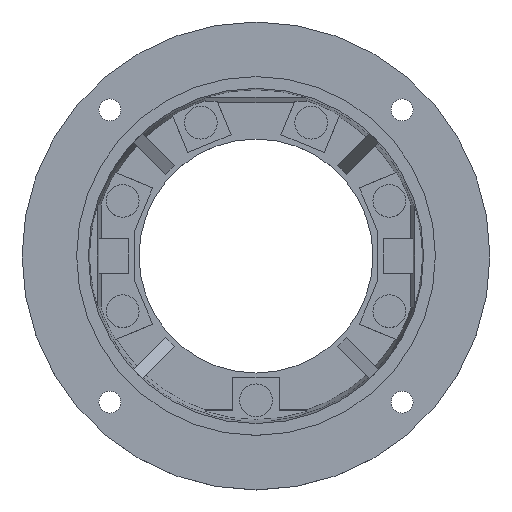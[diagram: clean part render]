
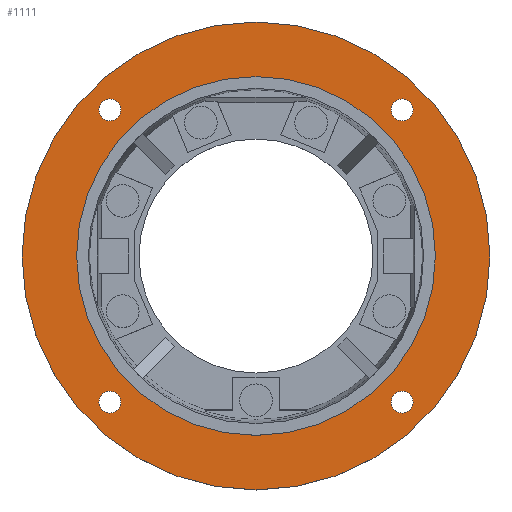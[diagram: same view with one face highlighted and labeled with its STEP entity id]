
A CAD part, top view. The second image highlights one B-rep face of the part: STEP entity #1111.
In plain terms, the highlighted planar face has unit normal (0, 0, 1) as drawn and (1, 0, 0) by its records, which use the part's own axes.
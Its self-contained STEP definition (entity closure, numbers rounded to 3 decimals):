
#1111=ADVANCED_FACE('',(#1296,#1259,#1260,#1261,#1262,#1263),#3746,.T.);
#1259=FACE_BOUND('',#1471,.T.);
#1260=FACE_BOUND('',#1472,.T.);
#1261=FACE_BOUND('',#1473,.T.);
#1262=FACE_BOUND('',#1474,.T.);
#1263=FACE_BOUND('',#1475,.T.);
#1296=FACE_OUTER_BOUND('',#1470,.T.);
#1470=EDGE_LOOP('',(#1895,#1896));
#1471=EDGE_LOOP('',(#1897,#1898));
#1472=EDGE_LOOP('',(#1899,#1900));
#1473=EDGE_LOOP('',(#1901,#1902));
#1474=EDGE_LOOP('',(#1903,#1904));
#1475=EDGE_LOOP('',(#1905,#1906));
#1895=ORIENTED_EDGE('',*,*,#2785,.F.);
#1896=ORIENTED_EDGE('',*,*,#2596,.F.);
#1897=ORIENTED_EDGE('',*,*,#2797,.F.);
#1898=ORIENTED_EDGE('',*,*,#2614,.F.);
#1899=ORIENTED_EDGE('',*,*,#2795,.F.);
#1900=ORIENTED_EDGE('',*,*,#2610,.F.);
#1901=ORIENTED_EDGE('',*,*,#2793,.F.);
#1902=ORIENTED_EDGE('',*,*,#2606,.F.);
#1903=ORIENTED_EDGE('',*,*,#2791,.F.);
#1904=ORIENTED_EDGE('',*,*,#2602,.F.);
#1905=ORIENTED_EDGE('',*,*,#2789,.F.);
#1906=ORIENTED_EDGE('',*,*,#2600,.F.);
#2596=EDGE_CURVE('',#3585,#3624,#2939,.T.);
#2600=EDGE_CURVE('',#3586,#3625,#2942,.T.);
#2602=EDGE_CURVE('',#3590,#3627,#2943,.T.);
#2606=EDGE_CURVE('',#3589,#3628,#2946,.T.);
#2610=EDGE_CURVE('',#3588,#3629,#2949,.T.);
#2614=EDGE_CURVE('',#3587,#3630,#2952,.T.);
#2785=EDGE_CURVE('',#3624,#3585,#2974,.T.);
#2789=EDGE_CURVE('',#3625,#3586,#2977,.T.);
#2791=EDGE_CURVE('',#3627,#3590,#2978,.T.);
#2793=EDGE_CURVE('',#3628,#3589,#2979,.T.);
#2795=EDGE_CURVE('',#3629,#3588,#2980,.T.);
#2797=EDGE_CURVE('',#3630,#3587,#2981,.T.);
#2939=TRIMMED_CURVE($,#3045,(#5653),(#5654),.T.,.CARTESIAN.);
#2942=TRIMMED_CURVE($,#3048,(#5664),(#5665),.T.,.CARTESIAN.);
#2943=TRIMMED_CURVE($,#3049,(#5669),(#5670),.T.,.CARTESIAN.);
#2946=TRIMMED_CURVE($,#3052,(#5680),(#5681),.T.,.CARTESIAN.);
#2949=TRIMMED_CURVE($,#3055,(#5691),(#5692),.T.,.CARTESIAN.);
#2952=TRIMMED_CURVE($,#3058,(#5702),(#5703),.T.,.CARTESIAN.);
#2974=TRIMMED_CURVE($,#3080,(#6154),(#6155),.T.,.CARTESIAN.);
#2977=TRIMMED_CURVE($,#3083,(#6165),(#6166),.T.,.CARTESIAN.);
#2978=TRIMMED_CURVE($,#3084,(#6170),(#6171),.T.,.CARTESIAN.);
#2979=TRIMMED_CURVE($,#3085,(#6175),(#6176),.T.,.CARTESIAN.);
#2980=TRIMMED_CURVE($,#3086,(#6180),(#6181),.T.,.CARTESIAN.);
#2981=TRIMMED_CURVE($,#3087,(#6185),(#6186),.T.,.CARTESIAN.);
#3045=CIRCLE('',#4266,150.);
#3048=CIRCLE('',#4269,115.);
#3049=CIRCLE('',#4270,7.);
#3052=CIRCLE('',#4273,7.);
#3055=CIRCLE('',#4276,7.);
#3058=CIRCLE('',#4279,7.);
#3080=CIRCLE('',#4301,150.);
#3083=CIRCLE('',#4304,115.);
#3084=CIRCLE('',#4305,7.);
#3085=CIRCLE('',#4306,7.);
#3086=CIRCLE('',#4307,7.);
#3087=CIRCLE('',#4308,7.);
#3585=VERTEX_POINT('',#5248);
#3586=VERTEX_POINT('',#5249);
#3587=VERTEX_POINT('',#5250);
#3588=VERTEX_POINT('',#5251);
#3589=VERTEX_POINT('',#5252);
#3590=VERTEX_POINT('',#5253);
#3624=VERTEX_POINT('',#5287);
#3625=VERTEX_POINT('',#5288);
#3627=VERTEX_POINT('',#5290);
#3628=VERTEX_POINT('',#5291);
#3629=VERTEX_POINT('',#5292);
#3630=VERTEX_POINT('',#5293);
#3746=PLANE('',#4125);
#4125=AXIS2_PLACEMENT_3D('',#4949,#4380,$);
#4266=AXIS2_PLACEMENT_3D($,#5652,#4558,#4559);
#4269=AXIS2_PLACEMENT_3D($,#5663,#4564,#4565);
#4270=AXIS2_PLACEMENT_3D($,#5668,#4566,#4567);
#4273=AXIS2_PLACEMENT_3D($,#5679,#4572,#4573);
#4276=AXIS2_PLACEMENT_3D($,#5690,#4578,#4579);
#4279=AXIS2_PLACEMENT_3D($,#5701,#4584,#4585);
#4301=AXIS2_PLACEMENT_3D($,#6153,#4628,#4629);
#4304=AXIS2_PLACEMENT_3D($,#6164,#4634,#4635);
#4305=AXIS2_PLACEMENT_3D($,#6169,#4636,#4637);
#4306=AXIS2_PLACEMENT_3D($,#6174,#4638,#4639);
#4307=AXIS2_PLACEMENT_3D($,#6179,#4640,#4641);
#4308=AXIS2_PLACEMENT_3D($,#6184,#4642,#4643);
#4380=DIRECTION('',(1.,0.,0.));
#4558=DIRECTION('',(-1.,0.,0.));
#4559=DIRECTION('',(0.,0.,-1.));
#4564=DIRECTION('',(1.,0.,0.));
#4565=DIRECTION('',(0.,0.,-1.));
#4566=DIRECTION('',(1.,0.,0.));
#4567=DIRECTION('',(0.,0.,1.));
#4572=DIRECTION('',(1.,0.,0.));
#4573=DIRECTION('',(0.,0.,1.));
#4578=DIRECTION('',(1.,0.,0.));
#4579=DIRECTION('',(0.,0.,1.));
#4584=DIRECTION('',(1.,0.,0.));
#4585=DIRECTION('',(0.,0.,1.));
#4628=DIRECTION('',(-1.,0.,0.));
#4629=DIRECTION('',(0.,0.,1.));
#4634=DIRECTION('',(1.,0.,0.));
#4635=DIRECTION('',(0.,0.,1.));
#4636=DIRECTION('',(1.,0.,0.));
#4637=DIRECTION('',(0.,0.,-1.));
#4638=DIRECTION('',(1.,0.,0.));
#4639=DIRECTION('',(0.,0.,-1.));
#4640=DIRECTION('',(1.,0.,0.));
#4641=DIRECTION('',(0.,0.,-1.));
#4642=DIRECTION('',(1.,0.,0.));
#4643=DIRECTION('',(0.,0.,-1.));
#4949=CARTESIAN_POINT('',(42.5,-180.06,-180.06));
#5248=CARTESIAN_POINT('',(42.5,0.,-150.));
#5249=CARTESIAN_POINT('',(42.5,0.,-115.));
#5250=CARTESIAN_POINT('',(42.5,-93.692,-86.692));
#5251=CARTESIAN_POINT('',(42.5,-93.692,100.692));
#5252=CARTESIAN_POINT('',(42.5,93.692,100.692));
#5253=CARTESIAN_POINT('',(42.5,93.692,-86.692));
#5287=CARTESIAN_POINT('',(42.5,0.,150.));
#5288=CARTESIAN_POINT('',(42.5,0.,115.));
#5290=CARTESIAN_POINT('',(42.5,93.692,-100.692));
#5291=CARTESIAN_POINT('',(42.5,93.692,86.692));
#5292=CARTESIAN_POINT('',(42.5,-93.692,86.692));
#5293=CARTESIAN_POINT('',(42.5,-93.692,-100.692));
#5652=CARTESIAN_POINT('',(42.5,0.,0.));
#5653=CARTESIAN_POINT('',(42.5,0.,-150.));
#5654=CARTESIAN_POINT('',(42.5,0.,150.));
#5663=CARTESIAN_POINT('',(42.5,0.,0.));
#5664=CARTESIAN_POINT('',(42.5,0.,-115.));
#5665=CARTESIAN_POINT('',(42.5,0.,115.));
#5668=CARTESIAN_POINT('',(42.5,93.692,-93.692));
#5669=CARTESIAN_POINT('',(42.5,93.692,-86.692));
#5670=CARTESIAN_POINT('',(42.5,93.692,-100.692));
#5679=CARTESIAN_POINT('',(42.5,93.692,93.692));
#5680=CARTESIAN_POINT('',(42.5,93.692,100.692));
#5681=CARTESIAN_POINT('',(42.5,93.692,86.692));
#5690=CARTESIAN_POINT('',(42.5,-93.692,93.692));
#5691=CARTESIAN_POINT('',(42.5,-93.692,100.692));
#5692=CARTESIAN_POINT('',(42.5,-93.692,86.692));
#5701=CARTESIAN_POINT('',(42.5,-93.692,-93.692));
#5702=CARTESIAN_POINT('',(42.5,-93.692,-86.692));
#5703=CARTESIAN_POINT('',(42.5,-93.692,-100.692));
#6153=CARTESIAN_POINT('',(42.5,0.,0.));
#6154=CARTESIAN_POINT('',(42.5,0.,150.));
#6155=CARTESIAN_POINT('',(42.5,0.,-150.));
#6164=CARTESIAN_POINT('',(42.5,0.,0.));
#6165=CARTESIAN_POINT('',(42.5,0.,115.));
#6166=CARTESIAN_POINT('',(42.5,0.,-115.));
#6169=CARTESIAN_POINT('',(42.5,93.692,-93.692));
#6170=CARTESIAN_POINT('',(42.5,93.692,-100.692));
#6171=CARTESIAN_POINT('',(42.5,93.692,-86.692));
#6174=CARTESIAN_POINT('',(42.5,93.692,93.692));
#6175=CARTESIAN_POINT('',(42.5,93.692,86.692));
#6176=CARTESIAN_POINT('',(42.5,93.692,100.692));
#6179=CARTESIAN_POINT('',(42.5,-93.692,93.692));
#6180=CARTESIAN_POINT('',(42.5,-93.692,86.692));
#6181=CARTESIAN_POINT('',(42.5,-93.692,100.692));
#6184=CARTESIAN_POINT('',(42.5,-93.692,-93.692));
#6185=CARTESIAN_POINT('',(42.5,-93.692,-100.692));
#6186=CARTESIAN_POINT('',(42.5,-93.692,-86.692));
